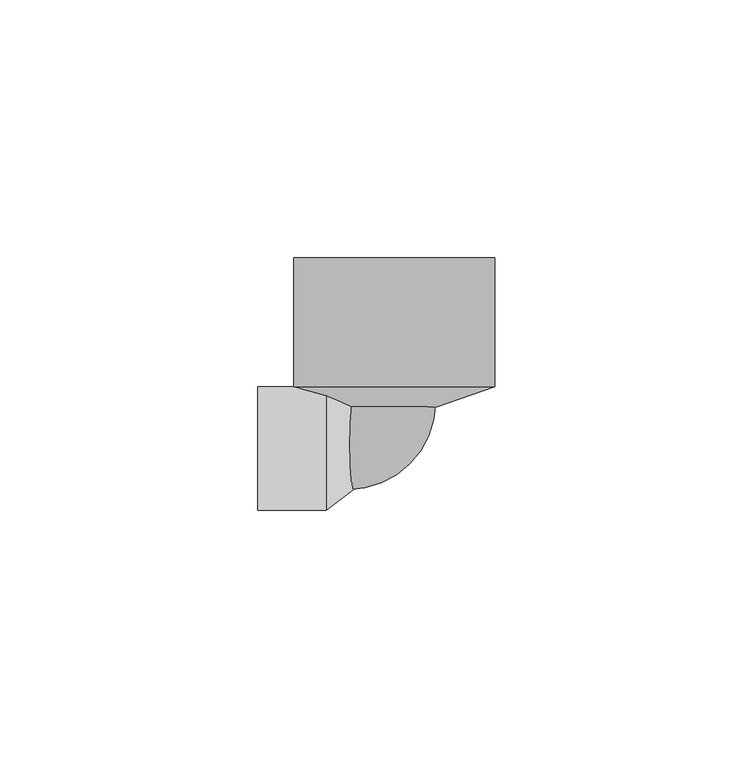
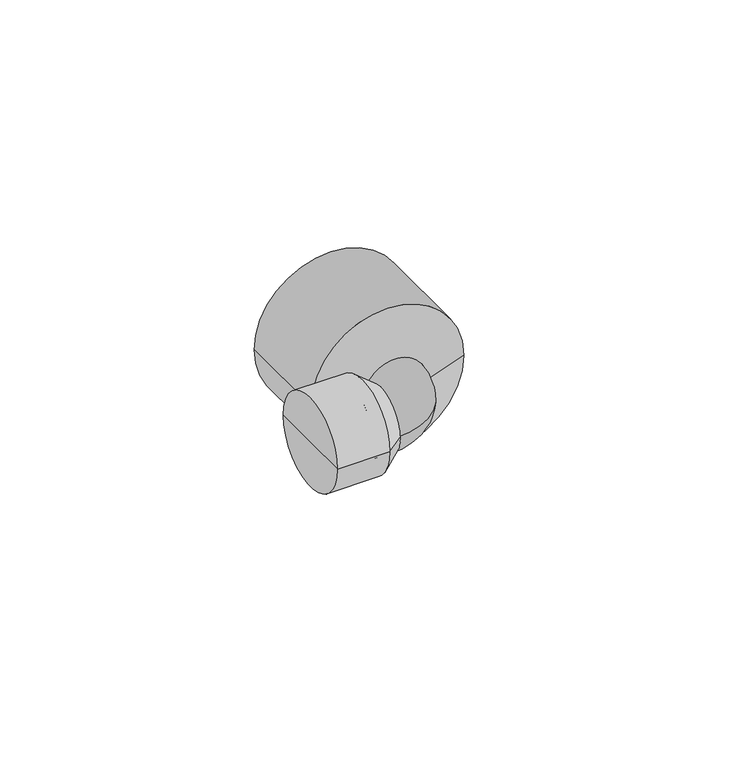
"""IFC4 building model written with IfcOpenShell, lengths in millimetres: pipe fitting geometry, KAN-therm PP kolano gw 1_2 : KAN-therm PP kolano gw 1_2."""

from ifc_helpers import new_model, si_unit, point, frame, origin, place, context, project, spatial, polyline, circle_curve, ellipse_curve, trimmed, source, transform, mapped, element, save
from ifc_brep_helpers import plane_surface, cylinder_surface, revolved_surface, advanced_brep


def pipe_fitting_05d3e583(model_context):
    return source(origin(), model_context, "Body", "AdvancedBrep", [
        advanced_brep(
        [(-8.0, 25.0, 0.0), (8.0, 25.0, 0.0), (-8.0, 9.0, 0.0), (8.0, 9.0, 0.0), (-13.2, 8.0, 0.0), (-13.2, -8.0, 0.0), (-9.0, -8.0, 0.0), (-9.0, 8.0, 0.0)],
        [
            (0, 1, circle_curve(frame((0.0, 25.0, 0.0), z_axis=(0.0, 1.0, 0.0), x_axis=(1.0, 0.0, 0.0)), 8.0)),
            (1, 0, circle_curve(frame((0.0, 25.0, 0.0), z_axis=(0.0, 1.0, 0.0), x_axis=(1.0, 0.0, 0.0)), 8.0)),
            (0, 2),
            (2, 3, circle_curve(frame((0.0, 9.0, 0.0), z_axis=(0.0, 1.0, 0.0), x_axis=(1.0, 0.0, 0.0)), 8.0)),
            (3, 1),
            (3, 2, circle_curve(frame((0.0, 9.0, 0.0), z_axis=(0.0, 1.0, 0.0), x_axis=(1.0, 0.0, 0.0)), 8.0)),
            (4, 5, circle_curve(frame((-13.2, 0.0, 0.0), z_axis=(-1.0, 0.0, 0.0), x_axis=(0.0, -1.0, 0.0)), 8.0)),
            (5, 4, circle_curve(frame((-13.2, 0.0, 0.0), z_axis=(-1.0, 0.0, 0.0), x_axis=(0.0, -1.0, 0.0)), 8.0)),
            (6, 7, circle_curve(frame((-9.0, 0.0, 0.0), z_axis=(-1.0, 0.0, 0.0), x_axis=(0.0, -1.0, 0.0)), 8.0)),
            (7, 4),
            (5, 6),
            (7, 6, circle_curve(frame((-9.0, 0.0, 0.0), z_axis=(-1.0, 0.0, 0.0), x_axis=(0.0, -1.0, 0.0)), 8.0)),
            (6, 3, circle_curve(frame((-9.0, 9.0, 0.0), z_axis=(0.0, 0.0, 1.0), x_axis=(1.0, 0.0, 0.0)), 17.0)),
            (2, 7, circle_curve(frame((-9.0, 9.0, 0.0), z_axis=(0.0, 0.0, -1.0), x_axis=(1.0, 0.0, 0.0)), 1.0)),
        ],
        [
            plane_surface(frame((0.0, 25.0, 0.0), z_axis=(0.0, 1.0, 0.0), x_axis=(0.0, 0.0, 1.0))),
            cylinder_surface(frame((0.0, 25.0, 0.0), z_axis=(0.0, 1.0, 0.0), x_axis=(1.0, 0.0, 0.0)), 8.0),
            plane_surface(frame((-13.2, 0.0, 0.0), z_axis=(-1.0, 0.0, 0.0), x_axis=(0.0, 0.0, 1.0))),
            cylinder_surface(frame((-9.0, 0.0, 0.0), z_axis=(1.0, 0.0, 0.0), x_axis=(0.0, -1.0, 0.0)), 8.0),
            revolved_surface(trimmed(ellipse_curve(frame((0.0, 9.0, 0.0), z_axis=(0.0, 1.0, 0.0), x_axis=(1.0, 0.0, 0.0)), 8.0, 8.0), [point((-8.0, 9.0, 0.0))], [point((8.0, 9.0, 0.0))], True, "CARTESIAN"), (-9.0, 9.0, 0.0), (0.0, 0.0, -1.0)),
            revolved_surface(trimmed(ellipse_curve(frame((0.0, 9.0, 0.0), z_axis=(0.0, 1.0, 0.0), x_axis=(1.0, 0.0, 0.0)), 8.0, 8.0), [point((8.0, 9.0, 0.0))], [point((-8.0, 9.0, 0.0))], True, "CARTESIAN"), (-9.0, 9.0, 0.0), (0.0, 0.0, -1.0)),
        ],
        [
            (0, [[1, 2]]),
            (1, [[-1, 3, 4, 5]]),
            (1, [[-2, -5, 6, -3]]),
            (2, [[7, 8]]),
            (3, [[9, 10, -8, 11]]),
            (3, [[12, -11, -7, -10]]),
            (4, [[13, -4, 14, -9]]),
            (5, [[-14, -6, -13, -12]]),
        ],
    ),
        advanced_brep(
        [(0.0, 37.0, 0.0), (19.5, 37.0, 0.0), (-19.5, 37.0, 0.0), (-8.0, 8.0, 0.0), (8.0, 8.0, 0.0), (0.0, 8.0, 0.0), (19.5, 12.0, 0.0), (-19.5, 12.0, 0.0)],
        [
            (0, 1),
            (1, 2, circle_curve(frame((0.0, 37.0, 0.0), z_axis=(0.0, 1.0, 0.0), x_axis=(1.0, 0.0, 0.0)), 19.5)),
            (2, 0),
            (2, 1, circle_curve(frame((0.0, 37.0, 0.0), z_axis=(0.0, 1.0, 0.0), x_axis=(1.0, 0.0, 0.0)), 19.5)),
            (3, 4, circle_curve(frame((0.0, 8.0, 0.0), z_axis=(0.0, -1.0, 0.0), x_axis=(1.0, 0.0, 0.0)), 8.0)),
            (4, 5),
            (5, 3),
            (4, 3, circle_curve(frame((0.0, 8.0, 0.0), z_axis=(0.0, -1.0, 0.0), x_axis=(1.0, 0.0, 0.0)), 8.0)),
            (1, 6),
            (6, 7, circle_curve(frame((0.0, 12.0, 0.0), z_axis=(0.0, 1.0, 0.0), x_axis=(1.0, 0.0, 0.0)), 19.5)),
            (7, 2),
            (7, 6, circle_curve(frame((0.0, 12.0, 0.0), z_axis=(0.0, 1.0, 0.0), x_axis=(1.0, 0.0, 0.0)), 19.5)),
            (6, 4),
            (3, 7),
        ],
        [
            plane_surface(frame((0.0, 37.0, 0.0), z_axis=(0.0, 1.0, 0.0), x_axis=(1.0, 0.0, 0.0))),
            plane_surface(frame((0.0, 8.0, 0.0), z_axis=(0.0, -1.0, 0.0), x_axis=(1.0, 0.0, 0.0))),
            cylinder_surface(frame((0.0, 2000.0, 0.0), z_axis=(0.0, 1.0, 0.0), x_axis=(1.0, 0.0, 0.0)), 19.5),
            revolved_surface(polyline([(8.0, 8.0, 0.0), (19.5, 12.0, 0.0)]), (0.0, 2000.0, 0.0), (0.0, 1.0, 0.0)),
        ],
        [
            (0, [[1, 2, 3]]),
            (0, [[-3, 4, -1]]),
            (1, [[5, 6, 7]]),
            (1, [[8, -7, -6]]),
            (2, [[-2, 9, 10, 11]]),
            (2, [[-4, -11, 12, -9]]),
            (3, [[-10, 13, -5, 14]]),
            (3, [[-12, -14, -8, -13]]),
        ],
    ),
        advanced_brep(
        [(-13.2, 12.0, 0.0), (-13.2, -12.0, 0.0), (-26.5, -12.0, 0.0), (-26.5, 12.0, 0.0), (-8.0, 0.0, 0.0), (-8.0, -8.0, 0.0), (-8.0, 8.0, 0.0), (-26.5, 0.0, 0.0)],
        [
            (0, 1, circle_curve(frame((-13.2, 0.0, 0.0), z_axis=(-1.0, 0.0, 0.0), x_axis=(0.0, -1.0, 0.0)), 12.0)),
            (1, 2),
            (2, 3, circle_curve(frame((-26.5, 0.0, 0.0), z_axis=(1.0, 0.0, 0.0), x_axis=(0.0, -1.0, 0.0)), 12.0)),
            (3, 0),
            (1, 0, circle_curve(frame((-13.2, 0.0, 0.0), z_axis=(-1.0, 0.0, 0.0), x_axis=(0.0, -1.0, 0.0)), 12.0)),
            (3, 2, circle_curve(frame((-26.5, 0.0, 0.0), z_axis=(1.0, 0.0, 0.0), x_axis=(0.0, -1.0, 0.0)), 12.0)),
            (4, 5),
            (5, 6, circle_curve(frame((-8.0, 0.0, 0.0), z_axis=(1.0, 0.0, 0.0), x_axis=(0.0, -1.0, 0.0)), 8.0)),
            (6, 4),
            (6, 5, circle_curve(frame((-8.0, 0.0, 0.0), z_axis=(1.0, 0.0, 0.0), x_axis=(0.0, -1.0, 0.0)), 8.0)),
            (2, 7),
            (7, 3),
            (5, 1),
            (0, 6),
        ],
        [
            cylinder_surface(frame((2000.0, 0.0, 0.0), z_axis=(1.0, 0.0, 0.0), x_axis=(0.0, -1.0, 0.0)), 12.0),
            plane_surface(frame((-8.0, 0.0, 0.0), z_axis=(1.0, 0.0, 0.0), x_axis=(0.0, -1.0, 0.0))),
            plane_surface(frame((-26.5, 0.0, 0.0), z_axis=(-1.0, 0.0, 0.0), x_axis=(0.0, -1.0, 0.0))),
            revolved_surface(polyline([(-13.2, -12.0, 0.0), (-8.0, -8.0, 0.0)]), (2000.0, 0.0, 0.0), (1.0, 0.0, 0.0)),
        ],
        [
            (0, [[1, 2, 3, 4]]),
            (0, [[5, -4, 6, -2]]),
            (1, [[7, 8, 9]]),
            (1, [[-9, 10, -7]]),
            (2, [[-3, 11, 12]]),
            (2, [[-6, -12, -11]]),
            (3, [[-8, 13, -1, 14]]),
            (3, [[-10, -14, -5, -13]]),
        ],
    ),
    ])


if __name__ == "__main__":
    model = new_model("IFC4")
    model_context = context("Model", 3, world=origin())
    ifc_project = project(units=[si_unit("LENGTHUNIT", "METRE", prefix="MILLI")], contexts=[model_context])
    site = spatial("IfcSite", under=ifc_project)
    building = spatial("IfcBuilding", under=site)
    placement = place(None, origin())
    pipe_fitting_shape = pipe_fitting_05d3e583(model_context)
    element("IfcPipeFitting", 1, ObjectType="KAN-therm PP kolano gw 1_2 : KAN-therm PP kolano gw 1_2", at=placement, inside=building, context=model_context, shape_type="MappedRepresentation", body=[
        mapped(pipe_fitting_shape, transform((0.0, 0.0, 0.0), x_axis=(1.0, 0.0, 0.0), y_axis=(0.0, 1.0, 0.0), z_axis=(0.0, 0.0, 1.0))),
    ])
    save(model, "model.ifc")
